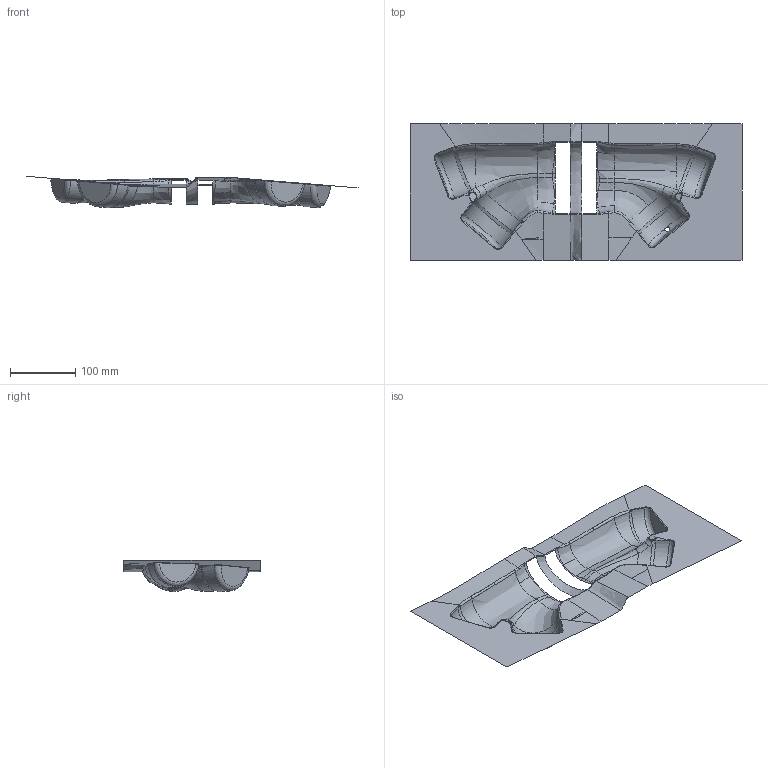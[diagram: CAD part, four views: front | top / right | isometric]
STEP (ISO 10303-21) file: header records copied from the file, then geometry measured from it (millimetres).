
FILE_DESCRIPTION(('STEP AP242'),'1');
FILE_NAME('123.stp','2017-11-10T11:24:45',(' '),(' '),'Spatial InterOp 3D',' ',' ');
FILE_SCHEMA(('AP242_MANAGED_MODEL_BASED_3D_ENGINEERING_MIM_LF {1 0 10303 442 1 1 4}'));
Length unit declared in the file: metre
Products named in the file (1): 1
Bounding box: 510 x 210 x 48.2 mm (x, y, z)
Surface area: 124601.5 mm2 (no closed solid volume)
Topology: 0 solids, 169 shells, 169 faces, 852 edges, 843 vertices
Faces by surface type: offset 81, bspline 50, cylinder 24, plane 12, torus 2
Entity records: 43907 total; most frequent: CARTESIAN_POINT 37703, ORIENTED_EDGE 867, EDGE_CURVE 867, VERTEX_POINT 867, B_SPLINE_CURVE_WITH_KNOTS 629, DIRECTION 392, STYLED_ITEM 171, PRESENTATION_STYLE_ASSIGNMENT 171
